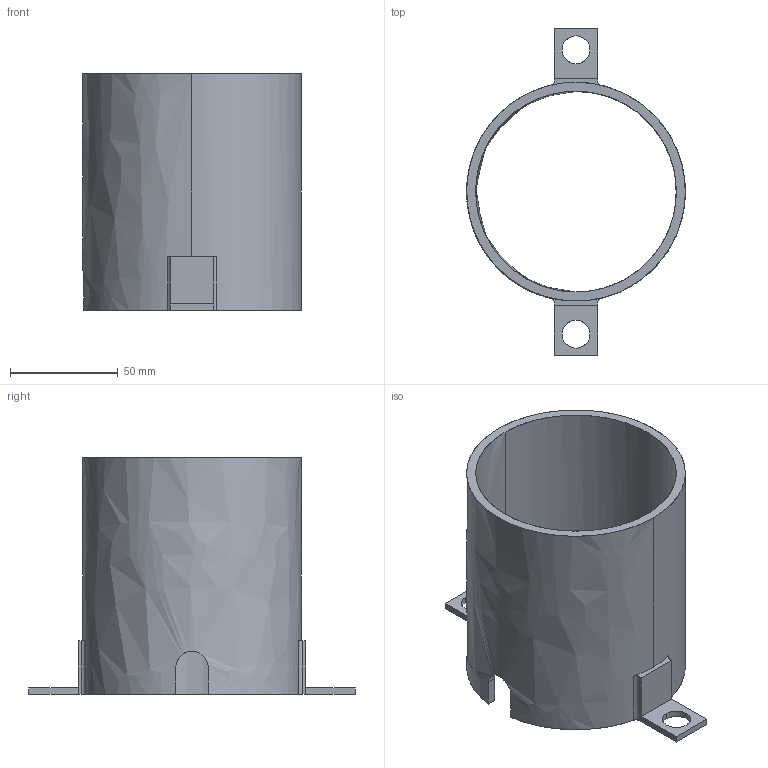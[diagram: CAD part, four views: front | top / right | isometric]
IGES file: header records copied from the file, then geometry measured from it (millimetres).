
Global section: file name: E:\UnigraphicsGraphicData\MISUMI_PRESS-PARTS\IGES\3d_ph70-110-r_07057_r00.igs; native system: NX V5.0; preprocessor: UGS NX IGES V5.0; author: MISUMI; date: 20110105.162244; units: millimetre
Bounding box: 101.6 x 151.6 x 110 mm (x, y, z)
Surface area: 74306.6 mm2 (no closed solid volume)
Topology: 0 solids, 0 shells, 41 faces, 290 edges, 290 vertices
Faces by surface type: bspline 41
